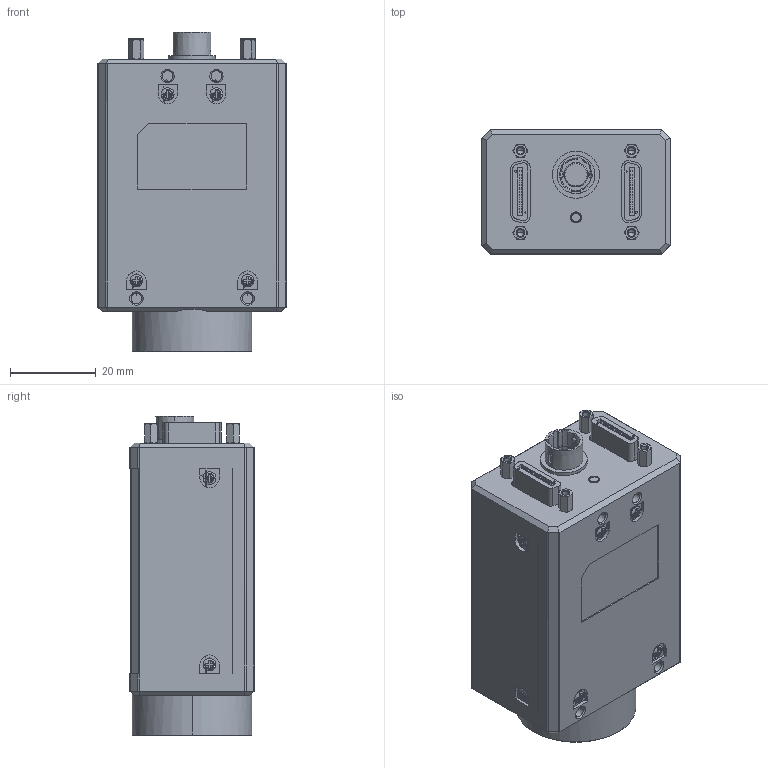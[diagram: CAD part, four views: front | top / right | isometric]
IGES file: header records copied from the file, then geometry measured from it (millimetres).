
Start section:  PTC IGES file: 29_44_59_cameralin00.igs
Global section: file name: 29_44_59_cameralin00.igs; native system: Creo Parametric by PTC Inc.; preprocessor: 2017260; author: wangyijun6; organization: Unknown; date: 20190817.161014; units: millimetre
Bounding box: 44 x 29 x 74.78 mm (x, y, z)
Volume: 75884 mm3; surface area: 25097.4 mm2
Topology: 3 solids, 21 shells, 1641 faces, 4667 edges, 3019 vertices
Faces by surface type: bspline 867, revolution 772, extrusion 2
